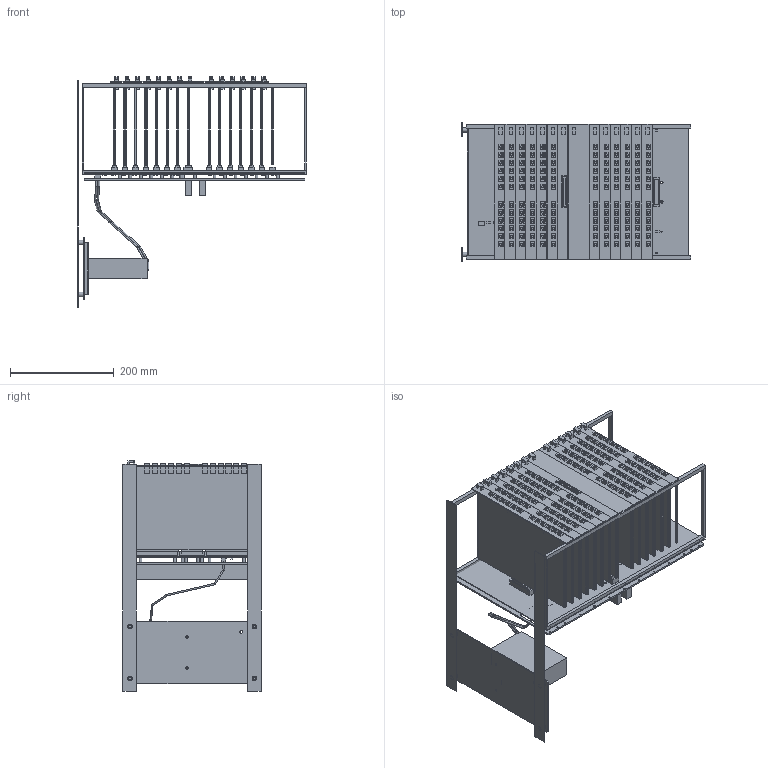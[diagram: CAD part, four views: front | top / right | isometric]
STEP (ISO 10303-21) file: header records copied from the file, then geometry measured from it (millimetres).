
FILE_DESCRIPTION(('FreeCAD Model'),'2;1');
FILE_NAME('Open CASCADE Shape Model','2026-11-21T22:18:30',(''),(''), 'Open CASCADE STEP processor 7.8','FreeCAD','Unknown');
FILE_SCHEMA(('AUTOMOTIVE_DESIGN { 1 0 10303 214 1 1 1 1 }'));
Length unit declared in the file: millimetre
Products named in the file (61): PSCONT 6U - 14 common sockets, X2 empty; support001; support; bars; bar1; bar2; psplate001; psplate; din001; din; psu001; psu; terminal; vents; cabinet001; cabinet; psmount; bp; backplane; posts; post; frame001; frame; socket; common_sock; master_sock; C1; plug; card; pwm_face; latch; optic; guide001; guide; C2; C3; C4; C5; C6; X1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
Assembly tree (368 placements, depth 3):
  PSCONT 6U - 14 common sockets, X2 empty
    support001
      support
    bars
      bar1
      bar2
    psplate001
      psplate
    din001
      din
    psu001
      psu
      terminal  x2
      vents
    cabinet001
      cabinet
      psmount  x4
    bp
      backplane
    posts
      post  x36
    frame001
      frame
    socket
      common_sock  x14
      master_sock  x2
    C1
      plug
      card
      pwm_face
      latch
      optic  x12
    guide001
      guide  x30
    C2
      plug
      card
      pwm_face
      latch
      optic  x12
    C3
      plug
      card
      pwm_face
      latch
      optic  x12
    C4
      plug
      card
      pwm_face
      latch
      optic  x12
    C5
      plug
      card
      pwm_face
      latch
      optic  x12
    C6
      plug
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Bounding box: 442.6 x 266.5 x 445.2 mm (x, y, z)
Volume: 2790655.8 mm3; surface area: 2312166.3 mm2
Topology: 473 solids, 473 shells, 3874 faces, 8205 edges, 5470 vertices
Faces by surface type: plane 3371, cylinder 491, sphere 12
Full cylindrical faces by diameter (mm): 1.3 x37, 2.1 x17, 2.7 x48, 2.85 x32, 2.9 x36, 3.1 x14, 3.2 x72, 3.3 x18, 3.4 x2, 4.5 x14, 4.6 x144, 5.2 x4, 5.5 x41, 8.8 x4
Entity records: 24846 total; most frequent: DIRECTION 4394, CARTESIAN_POINT 3875, ORIENTED_EDGE 3288, EDGE_CURVE 1644, AXIS2_PLACEMENT_3D 1627, FACE_BOUND 1186, EDGE_LOOP 1174, LINE 1140
